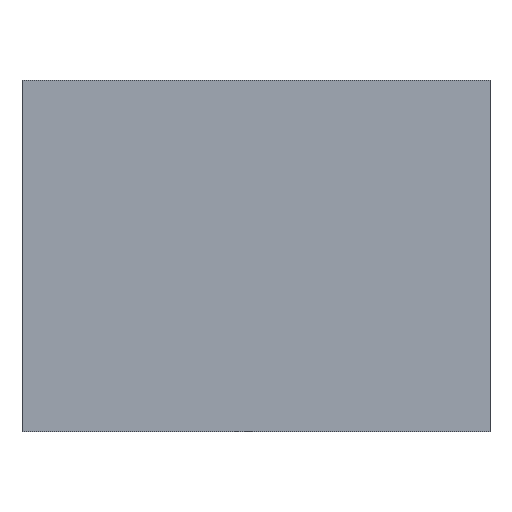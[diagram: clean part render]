
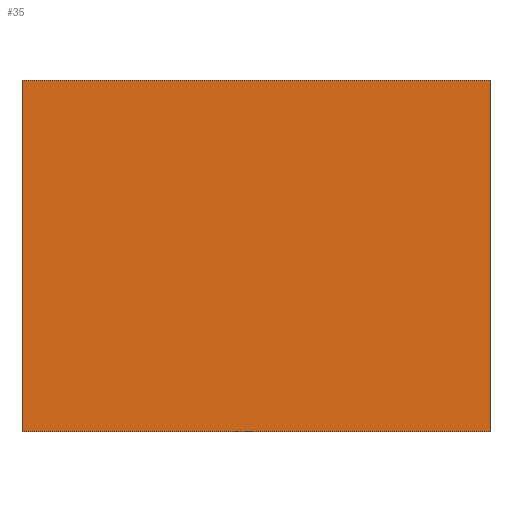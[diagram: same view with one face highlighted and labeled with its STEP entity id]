
A CAD part, left-side view. The second image highlights one B-rep face of the part: STEP entity #35.
In plain terms, the highlighted planar face has unit normal (-1, 0, 0).
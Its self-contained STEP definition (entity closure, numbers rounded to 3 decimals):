
#35 = ADVANCED_FACE('',(#36),#50,.F.);
#36 = FACE_BOUND('',#37,.F.);
#37 = EDGE_LOOP('',(#38,#73,#101,#129));
#38 = ORIENTED_EDGE('',*,*,#39,.F.);
#39 = EDGE_CURVE('',#40,#42,#44,.T.);
#40 = VERTEX_POINT('',#41);
#41 = CARTESIAN_POINT('',(-0.16,-2.,-1.5));
#42 = VERTEX_POINT('',#43);
#43 = CARTESIAN_POINT('',(-0.16,-2.,1.5));
#44 = SURFACE_CURVE('',#45,(#49,#61),.PCURVE_S1.);
#45 = LINE('',#46,#47);
#46 = CARTESIAN_POINT('',(-0.16,-2.,-1.5));
#47 = VECTOR('',#48,1.);
#48 = DIRECTION('',(0.,0.,1.));
#49 = PCURVE('',#50,#55);
#50 = PLANE('',#51);
#51 = AXIS2_PLACEMENT_3D('',#52,#53,#54);
#52 = CARTESIAN_POINT('',(-0.16,-2.,-1.5));
#53 = DIRECTION('',(1.,0.,0.));
#54 = DIRECTION('',(0.,0.,1.));
#55 = DEFINITIONAL_REPRESENTATION('',(#56),#60);
#56 = LINE('',#57,#58);
#57 = CARTESIAN_POINT('',(0.,0.));
#58 = VECTOR('',#59,1.);
#59 = DIRECTION('',(1.,0.));
#60 = ( GEOMETRIC_REPRESENTATION_CONTEXT(2) 
PARAMETRIC_REPRESENTATION_CONTEXT() REPRESENTATION_CONTEXT('2D SPACE',''
  ) );
#61 = PCURVE('',#62,#67);
#62 = PLANE('',#63);
#63 = AXIS2_PLACEMENT_3D('',#64,#65,#66);
#64 = CARTESIAN_POINT('',(-0.16,-2.,-1.5));
#65 = DIRECTION('',(0.,1.,0.));
#66 = DIRECTION('',(0.,0.,1.));
#67 = DEFINITIONAL_REPRESENTATION('',(#68),#72);
#68 = LINE('',#69,#70);
#69 = CARTESIAN_POINT('',(0.,0.));
#70 = VECTOR('',#71,1.);
#71 = DIRECTION('',(1.,0.));
#72 = ( GEOMETRIC_REPRESENTATION_CONTEXT(2) 
PARAMETRIC_REPRESENTATION_CONTEXT() REPRESENTATION_CONTEXT('2D SPACE',''
  ) );
#73 = ORIENTED_EDGE('',*,*,#74,.T.);
#74 = EDGE_CURVE('',#40,#75,#77,.T.);
#75 = VERTEX_POINT('',#76);
#76 = CARTESIAN_POINT('',(-0.16,2.,-1.5));
#77 = SURFACE_CURVE('',#78,(#82,#89),.PCURVE_S1.);
#78 = LINE('',#79,#80);
#79 = CARTESIAN_POINT('',(-0.16,-2.,-1.5));
#80 = VECTOR('',#81,1.);
#81 = DIRECTION('',(0.,1.,0.));
#82 = PCURVE('',#50,#83);
#83 = DEFINITIONAL_REPRESENTATION('',(#84),#88);
#84 = LINE('',#85,#86);
#85 = CARTESIAN_POINT('',(0.,0.));
#86 = VECTOR('',#87,1.);
#87 = DIRECTION('',(0.,-1.));
#88 = ( GEOMETRIC_REPRESENTATION_CONTEXT(2) 
PARAMETRIC_REPRESENTATION_CONTEXT() REPRESENTATION_CONTEXT('2D SPACE',''
  ) );
#89 = PCURVE('',#90,#95);
#90 = PLANE('',#91);
#91 = AXIS2_PLACEMENT_3D('',#92,#93,#94);
#92 = CARTESIAN_POINT('',(-0.16,-2.,-1.5));
#93 = DIRECTION('',(0.,0.,1.));
#94 = DIRECTION('',(1.,0.,0.));
#95 = DEFINITIONAL_REPRESENTATION('',(#96),#100);
#96 = LINE('',#97,#98);
#97 = CARTESIAN_POINT('',(0.,0.));
#98 = VECTOR('',#99,1.);
#99 = DIRECTION('',(0.,1.));
#100 = ( GEOMETRIC_REPRESENTATION_CONTEXT(2) 
PARAMETRIC_REPRESENTATION_CONTEXT() REPRESENTATION_CONTEXT('2D SPACE',''
  ) );
#101 = ORIENTED_EDGE('',*,*,#102,.T.);
#102 = EDGE_CURVE('',#75,#103,#105,.T.);
#103 = VERTEX_POINT('',#104);
#104 = CARTESIAN_POINT('',(-0.16,2.,1.5));
#105 = SURFACE_CURVE('',#106,(#110,#117),.PCURVE_S1.);
#106 = LINE('',#107,#108);
#107 = CARTESIAN_POINT('',(-0.16,2.,-1.5));
#108 = VECTOR('',#109,1.);
#109 = DIRECTION('',(0.,0.,1.));
#110 = PCURVE('',#50,#111);
#111 = DEFINITIONAL_REPRESENTATION('',(#112),#116);
#112 = LINE('',#113,#114);
#113 = CARTESIAN_POINT('',(0.,-4.));
#114 = VECTOR('',#115,1.);
#115 = DIRECTION('',(1.,0.));
#116 = ( GEOMETRIC_REPRESENTATION_CONTEXT(2) 
PARAMETRIC_REPRESENTATION_CONTEXT() REPRESENTATION_CONTEXT('2D SPACE',''
  ) );
#117 = PCURVE('',#118,#123);
#118 = PLANE('',#119);
#119 = AXIS2_PLACEMENT_3D('',#120,#121,#122);
#120 = CARTESIAN_POINT('',(-0.16,2.,-1.5));
#121 = DIRECTION('',(0.,1.,0.));
#122 = DIRECTION('',(0.,0.,1.));
#123 = DEFINITIONAL_REPRESENTATION('',(#124),#128);
#124 = LINE('',#125,#126);
#125 = CARTESIAN_POINT('',(0.,0.));
#126 = VECTOR('',#127,1.);
#127 = DIRECTION('',(1.,0.));
#128 = ( GEOMETRIC_REPRESENTATION_CONTEXT(2) 
PARAMETRIC_REPRESENTATION_CONTEXT() REPRESENTATION_CONTEXT('2D SPACE',''
  ) );
#129 = ORIENTED_EDGE('',*,*,#130,.F.);
#130 = EDGE_CURVE('',#42,#103,#131,.T.);
#131 = SURFACE_CURVE('',#132,(#136,#143),.PCURVE_S1.);
#132 = LINE('',#133,#134);
#133 = CARTESIAN_POINT('',(-0.16,-2.,1.5));
#134 = VECTOR('',#135,1.);
#135 = DIRECTION('',(0.,1.,0.));
#136 = PCURVE('',#50,#137);
#137 = DEFINITIONAL_REPRESENTATION('',(#138),#142);
#138 = LINE('',#139,#140);
#139 = CARTESIAN_POINT('',(3.,0.));
#140 = VECTOR('',#141,1.);
#141 = DIRECTION('',(0.,-1.));
#142 = ( GEOMETRIC_REPRESENTATION_CONTEXT(2) 
PARAMETRIC_REPRESENTATION_CONTEXT() REPRESENTATION_CONTEXT('2D SPACE',''
  ) );
#143 = PCURVE('',#144,#149);
#144 = PLANE('',#145);
#145 = AXIS2_PLACEMENT_3D('',#146,#147,#148);
#146 = CARTESIAN_POINT('',(-0.16,-2.,1.5));
#147 = DIRECTION('',(0.,0.,1.));
#148 = DIRECTION('',(1.,0.,0.));
#149 = DEFINITIONAL_REPRESENTATION('',(#150),#154);
#150 = LINE('',#151,#152);
#151 = CARTESIAN_POINT('',(0.,0.));
#152 = VECTOR('',#153,1.);
#153 = DIRECTION('',(0.,1.));
#154 = ( GEOMETRIC_REPRESENTATION_CONTEXT(2) 
PARAMETRIC_REPRESENTATION_CONTEXT() REPRESENTATION_CONTEXT('2D SPACE',''
  ) );
